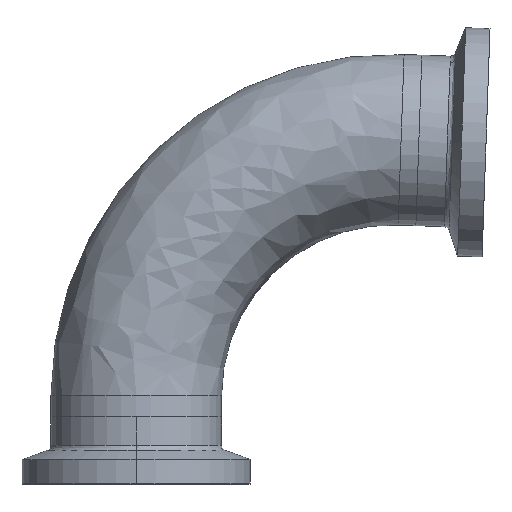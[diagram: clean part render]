
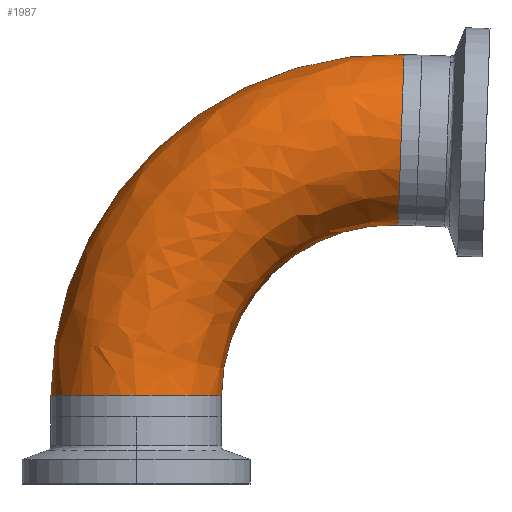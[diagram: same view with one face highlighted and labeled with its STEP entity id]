
A CAD part, top view. The second image highlights one B-rep face of the part: STEP entity #1987.
In plain terms, the highlighted free-form (B-spline) face has degree [3, 3] with [4, 4] control points.
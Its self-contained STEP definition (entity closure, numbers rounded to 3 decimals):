
#76 = CIRCLE ( 'NONE', #1296, 12.7 ) ;
#102 = CIRCLE ( 'NONE', #207, 50.8 ) ;
#120 = CARTESIAN_POINT ( 'NONE',  ( 12.7, 3.165, 25.4 ) ) ;
#207 = AXIS2_PLACEMENT_3D ( 'NONE', #269, #281, #264 ) ;
#257 = CARTESIAN_POINT ( 'NONE',  ( 38.986, 28.549, 0. ) ) ;
#264 = DIRECTION ( 'NONE',  ( -1., 0., 0. ) ) ;
#269 = CARTESIAN_POINT ( 'NONE',  ( 38.1, 3.165, 0. ) ) ;
#274 = CARTESIAN_POINT ( 'NONE',  ( 23.702, 29.083, 25.4 ) ) ;
#281 = DIRECTION ( 'NONE',  ( 0., 0., -1. ) ) ;
#324 =( BOUNDED_SURFACE ( )  B_SPLINE_SURFACE ( 3, 3, ( 
 ( #1974, #1341, #1660, #721 ),
 ( #1823, #877, #1985, #1033 ),
 ( #120, #1193, #274, #1349 ),
 ( #429, #1519, #584, #1666 ) ),
 .UNSPECIFIED., .F., .F., .F. ) 
 B_SPLINE_SURFACE_WITH_KNOTS ( ( 4, 4 ),
 ( 4, 4 ),
 ( 0., 1. ),
 ( 0., 1. ),
 .UNSPECIFIED. ) 
 GEOMETRIC_REPRESENTATION_ITEM ( )  RATIONAL_B_SPLINE_SURFACE ( (
 ( 1., 0.796, 0.796, 1.),
 ( 0.333, 0.265, 0.265, 0.333),
 ( 0.333, 0.265, 0.265, 0.333),
 ( 1., 0.796, 0.796, 1.) ) ) 
 REPRESENTATION_ITEM ( '' )  SURFACE ( )  );
#386 = DIRECTION ( 'NONE',  ( 0., 1., 0. ) ) ;
#393 = CARTESIAN_POINT ( 'NONE',  ( 39.43, 41.241, 0. ) ) ;
#404 = VERTEX_POINT ( 'NONE', #1418 ) ;
#429 = CARTESIAN_POINT ( 'NONE',  ( 12.7, 3.165, 0. ) ) ;
#514 = CARTESIAN_POINT ( 'NONE',  ( 38.1, 3.165, 0. ) ) ;
#528 = CIRCLE ( 'NONE', #1200, 25.4 ) ;
#584 = CARTESIAN_POINT ( 'NONE',  ( 23.702, 29.083, 0. ) ) ;
#647 = CIRCLE ( 'NONE', #798, 12.7 ) ;
#721 = CARTESIAN_POINT ( 'NONE',  ( 39.873, 53.934, 0. ) ) ;
#798 = AXIS2_PLACEMENT_3D ( 'NONE', #393, #1798, #1422 ) ;
#826 = CARTESIAN_POINT ( 'NONE',  ( 39.873, 53.934, 0. ) ) ;
#877 = CARTESIAN_POINT ( 'NONE',  ( -12.7, 33.753, 25.4 ) ) ;
#961 = DIRECTION ( 'NONE',  ( -1., 0., 0. ) ) ;
#1033 = CARTESIAN_POINT ( 'NONE',  ( 39.873, 53.934, 25.4 ) ) ;
#1078 = EDGE_LOOP ( 'NONE', ( #1558, #1521, #1790, #1845 ) ) ;
#1193 = CARTESIAN_POINT ( 'NONE',  ( 12.7, 18.459, 25.4 ) ) ;
#1200 = AXIS2_PLACEMENT_3D ( 'NONE', #514, #1911, #961 ) ;
#1240 = CARTESIAN_POINT ( 'NONE',  ( 12.7, 3.165, 0. ) ) ;
#1296 = AXIS2_PLACEMENT_3D ( 'NONE', #1303, #386, #1471 ) ;
#1303 = CARTESIAN_POINT ( 'NONE',  ( 0., 3.165, 0. ) ) ;
#1341 = CARTESIAN_POINT ( 'NONE',  ( -12.7, 33.753, 0. ) ) ;
#1349 = CARTESIAN_POINT ( 'NONE',  ( 38.986, 28.549, 25.4 ) ) ;
#1370 = VERTEX_POINT ( 'NONE', #1240 ) ;
#1418 = CARTESIAN_POINT ( 'NONE',  ( -12.7, 3.165, 0. ) ) ;
#1422 = DIRECTION ( 'NONE',  ( 0.035, 0.999, 0. ) ) ;
#1471 = DIRECTION ( 'NONE',  ( -1., 0., 0. ) ) ;
#1519 = CARTESIAN_POINT ( 'NONE',  ( 12.7, 18.459, 0. ) ) ;
#1521 = ORIENTED_EDGE ( 'NONE', *, *, #1915, .T. ) ;
#1558 = ORIENTED_EDGE ( 'NONE', *, *, #1935, .T. ) ;
#1578 = VERTEX_POINT ( 'NONE', #257 ) ;
#1657 = EDGE_CURVE ( 'NONE', #1578, #1712, #647, .T. ) ;
#1660 = CARTESIAN_POINT ( 'NONE',  ( 9.303, 55.001, 0. ) ) ;
#1666 = CARTESIAN_POINT ( 'NONE',  ( 38.986, 28.549, 0. ) ) ;
#1701 = EDGE_CURVE ( 'NONE', #404, #1712, #102, .T. ) ;
#1712 = VERTEX_POINT ( 'NONE', #826 ) ;
#1790 = ORIENTED_EDGE ( 'NONE', *, *, #1657, .T. ) ;
#1798 = DIRECTION ( 'NONE',  ( -0.999, 0.035, 0. ) ) ;
#1823 = CARTESIAN_POINT ( 'NONE',  ( -12.7, 3.165, 25.4 ) ) ;
#1845 = ORIENTED_EDGE ( 'NONE', *, *, #1701, .F. ) ;
#1864 = FACE_OUTER_BOUND ( 'NONE', #1078, .T. ) ;
#1911 = DIRECTION ( 'NONE',  ( 0., 0., -1. ) ) ;
#1915 = EDGE_CURVE ( 'NONE', #1370, #1578, #528, .T. ) ;
#1935 = EDGE_CURVE ( 'NONE', #404, #1370, #76, .T. ) ;
#1974 = CARTESIAN_POINT ( 'NONE',  ( -12.7, 3.165, 0. ) ) ;
#1985 = CARTESIAN_POINT ( 'NONE',  ( 9.303, 55.001, 25.4 ) ) ;
#1987 = ADVANCED_FACE ( 'NONE', ( #1864 ), #324, .T. ) ;
